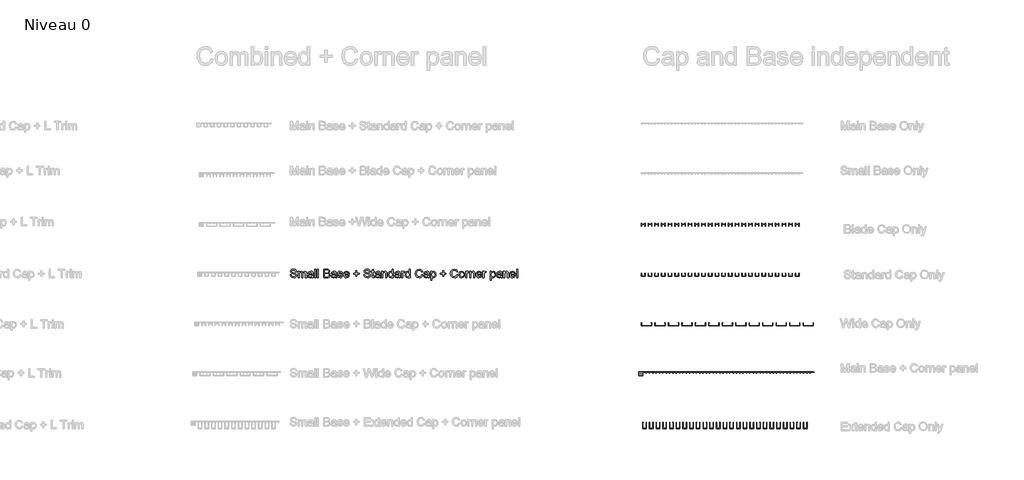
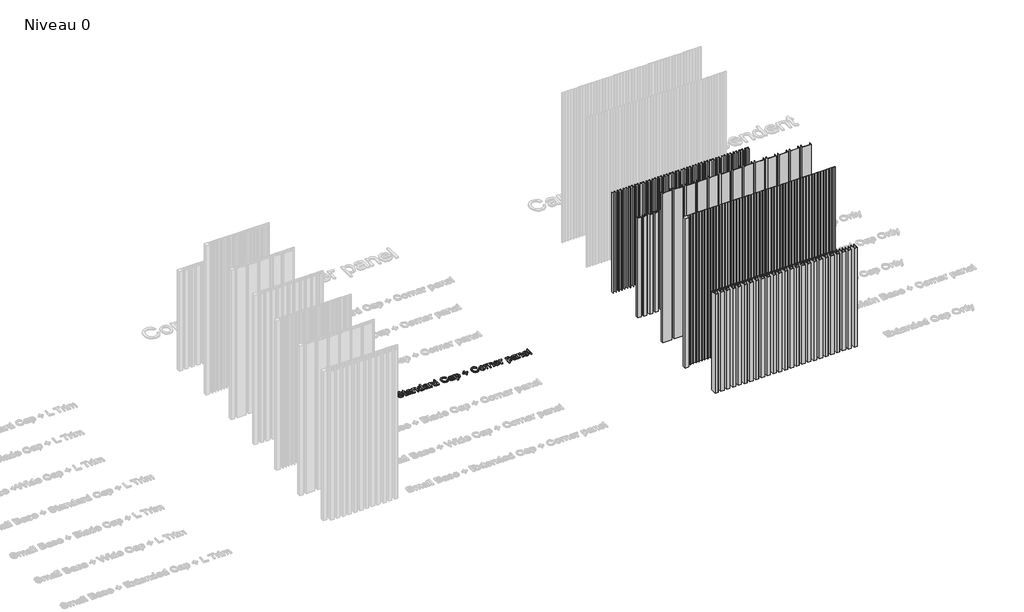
# One storey, part 16 of 25: 6 proxies.
"""IFC4 building model written with IfcOpenShell, lengths in millimetres."""

from ifc_helpers import new_model, si_unit, origin, origin_with_axes, place, context, project, spatial, polyline, outline, extrude, transform, mapped, element, save
from components import a_gen_line_blade_cap_only_a_gen_line_blade_cap_only_2f410b4f, a_gen_line_extended_cap_only_a_gen_line_extended_cap_only_e9d753a0, a_gen_line_main_base_only_corner_angle_a_gen_line_main_base_0dd37ec3, a_gen_line_standard_cap_only_a_gen_line_standard_cap_only_ef96d668, a_gen_line_wide_cap_only_a_gen_line_wide_cap_only_8896deaa

model = new_model("IFC4")

# Units and contexts
model_context = context("Model", 3, world=origin())
ifc_project = project(units=[si_unit("LENGTHUNIT", "METRE", prefix="MILLI")], contexts=[model_context])

# Site, building, storey
site = spatial("IfcSite", under=ifc_project)
building = spatial("IfcBuilding", under=site)
storey = spatial("IfcBuildingStorey", under=building, Name="Niveau 0", Elevation=0.0)

# Proxies
placement = place(None, origin())
element("IfcBuildingElementProxy", 1, Name="70mm Arial", ObjectType="70mm Arial", at=placement, inside=storey, context=model_context, shape_type="SweptSolid", body=[
    extrude(outline(polyline([(3882.8802856, 3324.589306), (3891.6702128, 3324.589306), (3894.5029041, 3315.790795), (3901.4215382, 3310.2284192), (3911.9625836, 3308.1081926), (3921.1473708, 3309.7133844), (3927.0788548, 3314.1255158), (3929.0274031, 3320.0226642), (3927.5681379, 3325.5077847), (3921.5937343, 3329.4993044), (3908.7951196, 3332.8556144), (3895.0179389, 3337.1904906), (3887.5413505, 3343.7314325), (3885.0777674, 3352.4698561), (3888.1250566, 3362.4186116), (3897.0265746, 3369.4402526), (3910.0569549, 3371.8351644), (3923.9628943, 3369.3286617), (3933.2335206, 3361.9636642), (3936.7185893, 3350.9590874), (3927.9286622, 3350.9590874), (3922.9499925, 3359.9893641), (3910.4003114, 3363.0452372), (3897.8162946, 3360.0236998), (3893.8676945, 3352.7273735), (3896.6660503, 3346.6327952), (3911.0183532, 3341.7227968), (3926.5724039, 3337.3106654), (3935.0790619, 3330.1860174), (3937.8173302, 3320.2458459), (3934.6670341, 3309.7305522), (3925.6024217, 3302.0565338), (3912.3059401, 3299.3182655), (3896.6059629, 3302.2711316), (3886.6743753, 3311.1640657), (3882.8802856, 3324.589306)])), origin_with_axes(), (0.0, 0.0, 1.0), 10.0),
    extrude(outline(polyline([(3949.9034801, 3300.4170064), (3949.9034801, 3352.0578283), (3958.6934072, 3352.0578283), (3958.6934072, 3343.5597542), (3964.7364821, 3350.5213078), (3973.3375631, 3353.1565692), (3982.1446581, 3350.4698044), (3986.9859852, 3342.9417125), (3993.8445318, 3350.602855), (4002.5057003, 3353.1565692), (4013.9995601, 3348.9075322), (4018.0254154, 3335.8170645), (4018.0254154, 3300.4170064), (4009.2354882, 3300.4170064), (4009.2354882, 3332.0401427), (4008.4200165, 3339.3793885), (4005.4671503, 3342.993216), (4000.4455611, 3344.3666421), (3991.8015605, 3340.8472376), (3988.3594113, 3329.5679757), (3988.3594113, 3300.4170064), (3979.5694841, 3300.4170064), (3979.5694841, 3333.0187088), (3977.5350967, 3341.5339507), (3970.8653961, 3344.3666421), (3964.3587899, 3342.4781812), (3960.0324977, 3336.950141), (3958.6934072, 3326.4605991), (3958.6934072, 3300.4170064), (3949.9034801, 3300.4170064)])), origin_with_axes(), (0.0, 0.0, 1.0), 10.0),
    extrude(outline(polyline([(4064.1725329, 3307.0094517), (4055.648707, 3301.052216), (4046.2321542, 3299.3182655), (4033.4678753, 3303.4900473), (4029.0128243, 3314.1512675), (4030.6952713, 3321.1042372), (4035.1159866, 3326.1515782), (4041.2706524, 3329.0357731), (4048.8759995, 3330.3576957), (4064.1210294, 3333.3792331), (4064.1725329, 3335.3363654), (4061.7518693, 3341.8258038), (4052.0348796, 3344.3666421), (4043.1419455, 3342.6756112), (4038.9014923, 3336.6754558), (4030.1115652, 3337.7741967), (4033.9142387, 3346.3581099), (4041.5710893, 3351.3882831), (4053.1679561, 3353.1565692), (4063.8205924, 3351.594297), (4069.8379156, 3347.6714487), (4072.5332643, 3341.705629), (4072.96246, 3334.0144427), (4072.96246, 3323.0785373), (4073.4088235, 3307.8077557), (4075.1599418, 3300.4170064), (4066.3700146, 3300.4170064), (4064.1725329, 3307.0094517)]), holes=[polyline([(4064.1725329, 3324.589306), (4049.9919082, 3321.8939573), (4042.4294807, 3320.4690277), (4039.0044993, 3318.1513711), (4037.8027514, 3314.7693093), (4040.420845, 3310.0138214), (4048.1034473, 3308.1081926), (4056.9963814, 3310.2112514), (4062.7304354, 3315.3015119), (4064.1210294, 3322.0999712), (4064.1725329, 3324.589306)])]), origin_with_axes(), (0.0, 0.0, 1.0), 10.0),
    extrude(outline(polyline([(4085.0486098, 3300.4170064), (4085.0486098, 3370.7364235), (4093.8385369, 3370.7364235), (4093.8385369, 3300.4170064), (4085.0486098, 3300.4170064)])), origin_with_axes(), (0.0, 0.0, 1.0), 10.0),
    extrude(outline(polyline([(4107.0234276, 3300.4170064), (4107.0234276, 3370.7364235), (4115.8133548, 3370.7364235), (4115.8133548, 3300.4170064), (4107.0234276, 3300.4170064)])), origin_with_axes(), (0.0, 0.0, 1.0), 10.0),
    extrude(outline(polyline([(4157.5655087, 3300.4170064), (4157.5655087, 3370.7364235), (4184.3988214, 3370.7364235), (4197.5407926, 3368.6677004), (4205.3006501, 3362.3070207), (4208.1075897, 3353.3110796), (4205.7470136, 3345.0962747), (4198.6137817, 3338.8729376), (4207.2749502, 3332.3148279), (4210.3050715, 3321.3789225), (4208.2363484, 3311.928034), (4203.1117522, 3305.198246), (4195.4634856, 3301.6273381), (4184.1928075, 3300.4170064), (4157.5655087, 3300.4170064)]), holes=[polyline([(4166.3554358, 3309.2069335), (4184.3816536, 3309.2069335), (4190.9054276, 3309.55029), (4196.4248838, 3311.4645027), (4200.0816309, 3315.3701832), (4201.5151444, 3321.2930833), (4199.8326974, 3328.1258783), (4194.3819125, 3332.203237), (4183.5232623, 3333.3792331), (4166.3554358, 3333.3792331), (4166.3554358, 3309.2069335)]), polyline([(4166.3554358, 3342.1691603), (4182.4073536, 3342.1691603), (4191.7809868, 3342.9245446), (4197.4206178, 3346.1778478), (4199.3176626, 3351.9033179), (4197.5493765, 3357.6373719), (4192.4848677, 3361.0280176), (4181.1884379, 3361.9464963), (4166.3554358, 3361.9464963), (4166.3554358, 3342.1691603)])]), origin_with_axes(), (0.0, 0.0, 1.0), 10.0),
    extrude(outline(polyline([(4254.2547072, 3307.0094517), (4245.7308814, 3301.052216), (4236.3143286, 3299.3182655), (4223.5500496, 3303.4900473), (4219.0949987, 3314.1512675), (4220.7774457, 3321.1042372), (4225.198161, 3326.1515782), (4231.3528267, 3329.0357731), (4238.9581739, 3330.3576957), (4254.2032037, 3333.3792331), (4254.2547072, 3335.3363654), (4251.8340437, 3341.8258038), (4242.1170539, 3344.3666421), (4233.2241198, 3342.6756112), (4228.9836667, 3336.6754558), (4220.1937396, 3337.7741967), (4223.9964131, 3346.3581099), (4231.6532637, 3351.3882831), (4243.2501305, 3353.1565692), (4253.9027668, 3351.594297), (4259.9200899, 3347.6714487), (4262.6154387, 3341.705629), (4263.0446343, 3334.0144427), (4263.0446343, 3323.0785373), (4263.4909978, 3307.8077557), (4265.2421161, 3300.4170064), (4256.452189, 3300.4170064), (4254.2547072, 3307.0094517)]), holes=[polyline([(4254.2547072, 3324.589306), (4240.0740826, 3321.8939573), (4232.511655, 3320.4690277), (4229.0866736, 3318.1513711), (4227.8849258, 3314.7693093), (4230.5030193, 3310.0138214), (4238.1856217, 3308.1081926), (4247.0785558, 3310.2112514), (4252.8126098, 3315.3015119), (4254.2032037, 3322.0999712), (4254.2547072, 3324.589306)])]), origin_with_axes(), (0.0, 0.0, 1.0), 10.0),
    extrude(outline(polyline([(4271.8345615, 3315.7993789), (4280.6244886, 3316.8981198), (4284.6932635, 3310.3743457), (4294.0153933, 3308.1081926), (4302.9769987, 3310.1854996), (4305.8955291, 3315.0611623), (4302.9598308, 3319.0097624), (4293.9123863, 3321.5162651), (4280.6759921, 3325.8168056), (4274.8990185, 3330.8383948), (4272.9333024, 3337.9287072), (4274.5127424, 3344.4782329), (4278.8218668, 3349.4826543), (4284.4099944, 3352.0835801), (4291.9724219, 3353.1565692), (4302.6679778, 3351.4312026), (4309.466437, 3346.7615539), (4312.4879745, 3338.8729376), (4303.6980474, 3337.7741967), (4300.3932408, 3342.6241077), (4292.659135, 3344.3666421), (4284.2469, 3342.7013629), (4281.7232295, 3338.8214341), (4282.7704669, 3336.263428), (4286.0495218, 3334.3234636), (4293.6205332, 3332.4521705), (4306.5221548, 3328.3147243), (4312.5137262, 3323.6279077), (4314.6854563, 3315.988225), (4312.1360341, 3307.57599), (4304.7796204, 3301.4728277), (4293.8952185, 3299.3182655), (4278.5643495, 3303.4728795), (4271.8345615, 3315.7993789)])), origin_with_axes(), (0.0, 0.0, 1.0), 10.0),
    extrude(outline(polyline([(4360.7295668, 3315.7993789), (4369.3478157, 3314.700638), (4361.2875212, 3303.3527047), (4346.2742569, 3299.3182655), (4335.9606852, 3301.0586539), (4328.0248574, 3306.2798191), (4322.9646406, 3314.6426966), (4321.2779016, 3325.8082217), (4322.9818084, 3337.349293), (4328.0935287, 3345.9804178), (4335.9220576, 3351.3625313), (4345.77639, 3353.1565692), (4355.3238475, 3351.3668233), (4362.9528003, 3345.9975856), (4367.9550758, 3337.3836287), (4369.6225009, 3325.8597252), (4369.5709974, 3323.4905651), (4330.0678288, 3323.4905651), (4335.1237537, 3312.0739605), (4346.4459352, 3308.1081926), (4355.0641841, 3309.9451501), (4360.7295668, 3315.7993789)]), holes=[polyline([(4330.0678288, 3332.2804923), (4360.8325738, 3332.2804923), (4357.3131693, 3340.2463637), (4345.7420543, 3344.3666421), (4334.9177397, 3341.0790033), (4330.0678288, 3332.2804923)])]), origin_with_axes(), (0.0, 0.0, 1.0), 10.0),
    extrude(outline(polyline([(4423.4608046, 3311.4044153), (4423.4608046, 3330.0830105), (4404.7822095, 3330.0830105), (4404.7822095, 3338.8729376), (4423.4608046, 3338.8729376), (4423.4608046, 3357.5515328), (4432.2507318, 3357.5515328), (4432.2507318, 3338.8729376), (4450.9293269, 3338.8729376), (4450.9293269, 3330.0830105), (4432.2507318, 3330.0830105), (4432.2507318, 3311.4044153), (4423.4608046, 3311.4044153)])), origin_with_axes(), (0.0, 0.0, 1.0), 10.0),
    extrude(outline(polyline([(4488.2865173, 3324.589306), (4497.0764444, 3324.589306), (4499.9091358, 3315.790795), (4506.8277698, 3310.2284192), (4517.3688153, 3308.1081926), (4526.5536024, 3309.7133844), (4532.4850864, 3314.1255158), (4534.4336347, 3320.0226642), (4532.9743695, 3325.5077847), (4526.9999659, 3329.4993044), (4514.2013513, 3332.8556144), (4500.4241706, 3337.1904906), (4492.9475821, 3343.7314325), (4490.483999, 3352.4698561), (4493.5312882, 3362.4186116), (4502.4328063, 3369.4402526), (4515.4631865, 3371.8351644), (4529.3691259, 3369.3286617), (4538.6397522, 3361.9636642), (4542.124821, 3350.9590874), (4533.3348938, 3350.9590874), (4528.3562242, 3359.9893641), (4515.806543, 3363.0452372), (4503.2225263, 3360.0236998), (4499.2739262, 3352.7273735), (4502.0722819, 3346.6327952), (4516.4245848, 3341.7227968), (4531.9786356, 3337.3106654), (4540.4852936, 3330.1860174), (4543.2235619, 3320.2458459), (4540.0732657, 3309.7305522), (4531.0086534, 3302.0565338), (4517.7121718, 3299.3182655), (4502.0121945, 3302.2711316), (4492.0806069, 3311.1640657), (4488.2865173, 3324.589306)])), origin_with_axes(), (0.0, 0.0, 1.0), 10.0),
    extrude(outline(polyline([(4573.9883069, 3307.7476683), (4575.0870478, 3300.159489), (4568.5117702, 3299.3182655), (4561.1467727, 3300.7775307), (4557.4728578, 3304.605956), (4556.4084526, 3314.5804632), (4556.4084526, 3343.2679012), (4549.8160072, 3343.2679012), (4549.8160072, 3352.0578283), (4556.4084526, 3352.0578283), (4556.4084526, 3364.6075094), (4565.1983797, 3369.7750252), (4565.1983797, 3352.0578283), (4573.9883069, 3352.0578283), (4573.9883069, 3343.2679012), (4565.1983797, 3343.2679012), (4565.1983797, 3314.8379806), (4565.661911, 3310.3056744), (4567.1640958, 3308.7004826), (4570.1598816, 3308.1081926), (4573.9883069, 3307.7476683)])), origin_with_axes(), (0.0, 0.0, 1.0), 10.0),
    extrude(outline(polyline([(4615.7404608, 3307.0094517), (4607.2166349, 3301.052216), (4597.8000821, 3299.3182655), (4585.0358032, 3303.4900473), (4580.5807522, 3314.1512675), (4582.2631992, 3321.1042372), (4586.6839145, 3326.1515782), (4592.8385803, 3329.0357731), (4600.4439274, 3330.3576957), (4615.6889573, 3333.3792331), (4615.7404608, 3335.3363654), (4613.3197972, 3341.8258038), (4603.6028075, 3344.3666421), (4594.7098734, 3342.6756112), (4590.4694202, 3336.6754558), (4581.6794931, 3337.7741967), (4585.4821667, 3346.3581099), (4593.1390173, 3351.3882831), (4604.735884, 3353.1565692), (4615.3885203, 3351.594297), (4621.4058435, 3347.6714487), (4624.1011922, 3341.705629), (4624.5303879, 3334.0144427), (4624.5303879, 3323.0785373), (4624.9767514, 3307.8077557), (4626.7278697, 3300.4170064), (4617.9379426, 3300.4170064), (4615.7404608, 3307.0094517)]), holes=[polyline([(4615.7404608, 3324.589306), (4601.5598361, 3321.8939573), (4593.9974086, 3320.4690277), (4590.5724272, 3318.1513711), (4589.3706794, 3314.7693093), (4591.9887729, 3310.0138214), (4599.6713752, 3308.1081926), (4608.5643093, 3310.2112514), (4614.2983633, 3315.3015119), (4615.6889573, 3322.0999712), (4615.7404608, 3324.589306)])]), origin_with_axes(), (0.0, 0.0, 1.0), 10.0),
    extrude(outline(polyline([(4636.6165377, 3300.4170064), (4636.6165377, 3352.0578283), (4645.4064649, 3352.0578283), (4645.4064649, 3344.8473412), (4652.1276689, 3351.0792622), (4661.3038721, 3353.1565692), (4669.6045162, 3351.4827061), (4675.269899, 3347.0877426), (4677.9051603, 3340.6240559), (4678.3686916, 3332.1259818), (4678.3686916, 3300.4170064), (4669.5787645, 3300.4170064), (4669.5787645, 3330.9414018), (4668.5658627, 3338.7184272), (4664.9863709, 3342.8301216), (4658.9518799, 3344.3666421), (4649.4151523, 3340.915909), (4645.4064649, 3327.8168574), (4645.4064649, 3300.4170064), (4636.6165377, 3300.4170064)])), origin_with_axes(), (0.0, 0.0, 1.0), 10.0),
    extrude(outline(polyline([(4722.3183273, 3300.4170064), (4722.3183273, 3308.7090665), (4716.5027261, 3301.6659658), (4708.4638914, 3299.3182655), (4697.5794894, 3302.7174951), (4689.8883032, 3312.2027192), (4687.1586188, 3326.1859139), (4689.6737053, 3340.1776924), (4697.2103811, 3349.8088431), (4708.4295557, 3353.1565692), (4716.5327698, 3350.7616574), (4722.3183273, 3344.5383203), (4722.3183273, 3370.7364235), (4731.1082545, 3370.7364235), (4731.1082545, 3300.4170064), (4722.3183273, 3300.4170064)]), holes=[polyline([(4695.9485459, 3326.2202495), (4699.9143138, 3312.6147471), (4709.2707792, 3308.1081926), (4718.5156538, 3312.4087331), (4722.3183273, 3325.5507043), (4718.4469825, 3339.8171681), (4708.9102549, 3344.3666421), (4699.6567964, 3339.9974302), (4695.9485459, 3326.2202495)])]), origin_with_axes(), (0.0, 0.0, 1.0), 10.0),
    extrude(outline(polyline([(4777.2553719, 3307.0094517), (4768.7315461, 3301.052216), (4759.3149933, 3299.3182655), (4746.5507143, 3303.4900473), (4742.0956634, 3314.1512675), (4743.7781104, 3321.1042372), (4748.1988257, 3326.1515782), (4754.3534915, 3329.0357731), (4761.9588386, 3330.3576957), (4777.2038684, 3333.3792331), (4777.2553719, 3335.3363654), (4774.8347084, 3341.8258038), (4765.1177186, 3344.3666421), (4756.2247845, 3342.6756112), (4751.9843314, 3336.6754558), (4743.1944043, 3337.7741967), (4746.9970778, 3346.3581099), (4754.6539284, 3351.3882831), (4766.2507952, 3353.1565692), (4776.9034315, 3351.594297), (4782.9207547, 3347.6714487), (4785.6161034, 3341.705629), (4786.0452991, 3334.0144427), (4786.0452991, 3323.0785373), (4786.4916626, 3307.8077557), (4788.2427809, 3300.4170064), (4779.4528537, 3300.4170064), (4777.2553719, 3307.0094517)]), holes=[polyline([(4777.2553719, 3324.589306), (4763.0747473, 3321.8939573), (4755.5123197, 3320.4690277), (4752.0873384, 3318.1513711), (4750.8855905, 3314.7693093), (4753.503684, 3310.0138214), (4761.1862864, 3308.1081926), (4770.0792205, 3310.2112514), (4775.8132745, 3315.3015119), (4777.2038684, 3322.0999712), (4777.2553719, 3324.589306)])]), origin_with_axes(), (0.0, 0.0, 1.0), 10.0),
    extrude(outline(polyline([(4798.1314489, 3300.4170064), (4798.1314489, 3352.0578283), (4805.8226351, 3352.0578283), (4805.8226351, 3344.4181455), (4811.2820039, 3351.4569544), (4816.7757084, 3353.1565692), (4825.5999712, 3350.4440526), (4822.6642729, 3342.5640203), (4816.4838553, 3344.3666421), (4811.5137696, 3342.6326916), (4808.3463056, 3337.8257002), (4806.921376, 3327.55934), (4806.921376, 3300.4170064), (4798.1314489, 3300.4170064)])), origin_with_axes(), (0.0, 0.0, 1.0), 10.0),
    extrude(outline(polyline([(4862.9571615, 3300.4170064), (4862.9571615, 3308.7090665), (4857.1415603, 3301.6659658), (4849.1027256, 3299.3182655), (4838.2183236, 3302.7174951), (4830.5271374, 3312.2027192), (4827.797453, 3326.1859139), (4830.3125395, 3340.1776924), (4837.8492154, 3349.8088431), (4849.0683899, 3353.1565692), (4857.171604, 3350.7616574), (4862.9571615, 3344.5383203), (4862.9571615, 3370.7364235), (4871.7470887, 3370.7364235), (4871.7470887, 3300.4170064), (4862.9571615, 3300.4170064)]), holes=[polyline([(4836.5873801, 3326.2202495), (4840.553148, 3312.6147471), (4849.9096134, 3308.1081926), (4859.154488, 3312.4087331), (4862.9571615, 3325.5507043), (4859.0858167, 3339.8171681), (4849.5490891, 3344.3666421), (4840.2956306, 3339.9974302), (4836.5873801, 3326.2202495)])]), origin_with_axes(), (0.0, 0.0, 1.0), 10.0),
    extrude(outline(polyline([(4962.9425827, 3325.4133617), (4971.7325099, 3323.1472086), (4967.6766109, 3312.9044541), (4961.3116392, 3305.4214278), (4952.9509077, 3300.8440561), (4942.9077293, 3299.3182655), (4924.6154102, 3303.9364108), (4913.8855187, 3317.3101476), (4910.2030199, 3336.1089175), (4914.3662178, 3355.2167084), (4926.2034341, 3367.6032952), (4943.0965754, 3371.8351644), (4960.7021814, 3366.3586277), (4970.633769, 3350.9419196), (4961.8438418, 3348.8474448), (4954.6333547, 3359.6545915), (4942.7532188, 3363.0452372), (4929.0017898, 3359.2854832), (4921.2333484, 3349.1908013), (4918.992947, 3336.1260854), (4921.6453762, 3320.9840625), (4929.9031007, 3311.3099923), (4942.0321701, 3308.1081926), (4955.4831621, 3312.4688205), (4962.9425827, 3325.4133617)])), origin_with_axes(), (0.0, 0.0, 1.0), 10.0),
    extrude(outline(polyline([(5015.6821455, 3307.0094517), (5007.1583197, 3301.052216), (4997.7417669, 3299.3182655), (4984.977488, 3303.4900473), (4980.522437, 3314.1512675), (4982.204884, 3321.1042372), (4986.6255993, 3326.1515782), (4992.7802651, 3329.0357731), (5000.3856122, 3330.3576957), (5015.6306421, 3333.3792331), (5015.6821455, 3335.3363654), (5013.261482, 3341.8258038), (5003.5444923, 3344.3666421), (4994.6515582, 3342.6756112), (4990.411105, 3336.6754558), (4981.6211779, 3337.7741967), (4985.4238514, 3346.3581099), (4993.080702, 3351.3882831), (5004.6775688, 3353.1565692), (5015.3302051, 3351.594297), (5021.3475283, 3347.6714487), (5024.042877, 3341.705629), (5024.4720727, 3334.0144427), (5024.4720727, 3323.0785373), (5024.9184362, 3307.8077557), (5026.6695545, 3300.4170064), (5017.8796273, 3300.4170064), (5015.6821455, 3307.0094517)]), holes=[polyline([(5015.6821455, 3324.589306), (5001.5015209, 3321.8939573), (4993.9390934, 3320.4690277), (4990.514112, 3318.1513711), (4989.3123641, 3314.7693093), (4991.9304577, 3310.0138214), (4999.61306, 3308.1081926), (5008.5059941, 3310.2112514), (5014.2400481, 3315.3015119), (5015.6306421, 3322.0999712), (5015.6821455, 3324.589306)])]), origin_with_axes(), (0.0, 0.0, 1.0), 10.0),
    extrude(outline(polyline([(5036.5582225, 3280.6396703), (5036.5582225, 3352.0578283), (5045.3481496, 3352.0578283), (5045.3481496, 3343.4395794), (5051.4255602, 3350.7273218), (5059.6317812, 3353.1565692), (5070.7737006, 3349.7573396), (5078.052859, 3340.1776924), (5080.5078582, 3326.6322774), (5077.7352542, 3312.3915653), (5069.6835436, 3302.6917434), (5058.567376, 3299.3182655), (5050.9191093, 3301.5758347), (5045.3481496, 3307.284137), (5045.3481496, 3280.6396703), (5036.5582225, 3280.6396703)]), holes=[polyline([(5045.3481496, 3325.8253895), (5049.1508232, 3312.4344849), (5058.3785299, 3308.1081926), (5067.7950827, 3312.5889953), (5071.7179311, 3326.4777669), (5067.8895058, 3339.9030072), (5058.7390543, 3344.3666421), (5049.4083406, 3339.6197381), (5045.3481496, 3325.8253895)])]), origin_with_axes(), (0.0, 0.0, 1.0), 10.0),
    extrude(outline(polyline([(5135.4449028, 3311.4044153), (5135.4449028, 3330.0830105), (5116.7663076, 3330.0830105), (5116.7663076, 3338.8729376), (5135.4449028, 3338.8729376), (5135.4449028, 3357.5515328), (5144.2348299, 3357.5515328), (5144.2348299, 3338.8729376), (5162.9134251, 3338.8729376), (5162.9134251, 3330.0830105), (5144.2348299, 3330.0830105), (5144.2348299, 3311.4044153), (5135.4449028, 3311.4044153)])), origin_with_axes(), (0.0, 0.0, 1.0), 10.0),
    extrude(outline(polyline([(5253.0101783, 3325.4133617), (5261.8001054, 3323.1472086), (5257.7442064, 3312.9044541), (5251.3792348, 3305.4214278), (5243.0185033, 3300.8440561), (5232.9753248, 3299.3182655), (5214.6830057, 3303.9364108), (5203.9531142, 3317.3101476), (5200.2706154, 3336.1089175), (5204.4338134, 3355.2167084), (5216.2710297, 3367.6032952), (5233.1641709, 3371.8351644), (5250.7697769, 3366.3586277), (5260.7013645, 3350.9419196), (5251.9114374, 3348.8474448), (5244.7009503, 3359.6545915), (5232.8208144, 3363.0452372), (5219.0693854, 3359.2854832), (5211.3009439, 3349.1908013), (5209.0605426, 3336.1260854), (5211.7129718, 3320.9840625), (5219.9706963, 3311.3099923), (5232.0997657, 3308.1081926), (5245.5507577, 3312.4688205), (5253.0101783, 3325.4133617)])), origin_with_axes(), (0.0, 0.0, 1.0), 10.0),
    extrude(outline(polyline([(5270.5900326, 3326.2374173), (5272.4913693, 3338.6883835), (5278.1953797, 3347.439683), (5293.6807591, 3353.1565692), (5302.9149038, 3351.4161808), (5310.2906312, 3346.1950156), (5315.1255203, 3337.9051014), (5316.73715, 3326.9584661), (5313.8872908, 3311.3185762), (5305.5866468, 3302.4685616), (5293.6807591, 3299.3182655), (5284.3350236, 3301.052216), (5276.9678801, 3306.2540674), (5272.1844944, 3314.7178058), (5270.5900326, 3326.2374173)]), holes=[polyline([(5279.3799597, 3326.2545852), (5283.4487346, 3312.6319149), (5293.6807591, 3308.1081926), (5303.878448, 3312.6576666), (5307.9472229, 3326.5292704), (5303.8526963, 3339.8429198), (5293.6807591, 3344.3666421), (5283.4487346, 3339.8600876), (5279.3799597, 3326.2545852)])]), origin_with_axes(), (0.0, 0.0, 1.0), 10.0),
    extrude(outline(polyline([(5326.6258181, 3300.4170064), (5326.6258181, 3352.0578283), (5334.3170043, 3352.0578283), (5334.3170043, 3344.4181455), (5339.7763731, 3351.4569544), (5345.2700776, 3353.1565692), (5354.0943404, 3350.4440526), (5351.158642, 3342.5640203), (5344.9782245, 3344.3666421), (5340.0081388, 3342.6326916), (5336.8406748, 3337.8257002), (5335.4157452, 3327.55934), (5335.4157452, 3300.4170064), (5326.6258181, 3300.4170064)])), origin_with_axes(), (0.0, 0.0, 1.0), 10.0),
    extrude(outline(polyline([(5359.5880448, 3300.4170064), (5359.5880448, 3352.0578283), (5368.377972, 3352.0578283), (5368.377972, 3344.8473412), (5375.099176, 3351.0792622), (5384.2753792, 3353.1565692), (5392.5760233, 3351.4827061), (5398.2414061, 3347.0877426), (5400.8766674, 3340.6240559), (5401.3401987, 3332.1259818), (5401.3401987, 3300.4170064), (5392.5502716, 3300.4170064), (5392.5502716, 3330.9414018), (5391.5373698, 3338.7184272), (5387.957878, 3342.8301216), (5381.923387, 3344.3666421), (5372.3866594, 3340.915909), (5368.377972, 3327.8168574), (5368.377972, 3300.4170064), (5359.5880448, 3300.4170064)])), origin_with_axes(), (0.0, 0.0, 1.0), 10.0),
    extrude(outline(polyline([(5449.581791, 3315.7993789), (5458.2000399, 3314.700638), (5450.1397454, 3303.3527047), (5435.1264812, 3299.3182655), (5424.8129094, 3301.0586539), (5416.8770817, 3306.2798191), (5411.8168648, 3314.6426966), (5410.1301259, 3325.8082217), (5411.8340326, 3337.349293), (5416.945753, 3345.9804178), (5424.7742818, 3351.3625313), (5434.6286142, 3353.1565692), (5444.1760717, 3351.3668233), (5451.8050246, 3345.9975856), (5456.8073, 3337.3836287), (5458.4747251, 3325.8597252), (5458.4232217, 3323.4905651), (5418.920053, 3323.4905651), (5423.9759779, 3312.0739605), (5435.2981594, 3308.1081926), (5443.9164083, 3309.9451501), (5449.581791, 3315.7993789)]), holes=[polyline([(5418.920053, 3332.2804923), (5449.684798, 3332.2804923), (5446.1653936, 3340.2463637), (5434.5942785, 3344.3666421), (5423.769964, 3341.0790033), (5418.920053, 3332.2804923)])]), origin_with_axes(), (0.0, 0.0, 1.0), 10.0),
    extrude(outline(polyline([(5467.2646523, 3300.4170064), (5467.2646523, 3352.0578283), (5474.9558385, 3352.0578283), (5474.9558385, 3344.4181455), (5480.4152073, 3351.4569544), (5485.9089118, 3353.1565692), (5494.7331746, 3350.4440526), (5491.7974763, 3342.5640203), (5485.6170587, 3344.3666421), (5480.646973, 3342.6326916), (5477.479509, 3337.8257002), (5476.0545794, 3327.55934), (5476.0545794, 3300.4170064), (5467.2646523, 3300.4170064)])), origin_with_axes(), (0.0, 0.0, 1.0), 10.0),
    extrude(outline(polyline([(5527.6954013, 3280.6396703), (5527.6954013, 3352.0578283), (5536.4853285, 3352.0578283), (5536.4853285, 3343.4395794), (5542.562739, 3350.7273218), (5550.7689601, 3353.1565692), (5561.9108794, 3349.7573396), (5569.1900379, 3340.1776924), (5571.645037, 3326.6322774), (5568.8724331, 3312.3915653), (5560.8207225, 3302.6917434), (5549.7045548, 3299.3182655), (5542.0562882, 3301.5758347), (5536.4853285, 3307.284137), (5536.4853285, 3280.6396703), (5527.6954013, 3280.6396703)]), holes=[polyline([(5536.4853285, 3325.8253895), (5540.288002, 3312.4344849), (5549.5157087, 3308.1081926), (5558.9322616, 3312.5889953), (5562.8551099, 3326.4777669), (5559.0266846, 3339.9030072), (5549.8762331, 3344.3666421), (5540.5455194, 3339.6197381), (5536.4853285, 3325.8253895)])]), origin_with_axes(), (0.0, 0.0, 1.0), 10.0),
    extrude(outline(polyline([(5614.4959318, 3307.0094517), (5605.972106, 3301.052216), (5596.5555532, 3299.3182655), (5583.7912742, 3303.4900473), (5579.3362233, 3314.1512675), (5581.0186703, 3321.1042372), (5585.4393856, 3326.1515782), (5591.5940514, 3329.0357731), (5599.1993985, 3330.3576957), (5614.4444284, 3333.3792331), (5614.4959318, 3335.3363654), (5612.0752683, 3341.8258038), (5602.3582785, 3344.3666421), (5593.4653444, 3342.6756112), (5589.2248913, 3336.6754558), (5580.4349642, 3337.7741967), (5584.2376377, 3346.3581099), (5591.8944883, 3351.3882831), (5603.4913551, 3353.1565692), (5614.1439914, 3351.594297), (5620.1613146, 3347.6714487), (5622.8566633, 3341.705629), (5623.285859, 3334.0144427), (5623.285859, 3323.0785373), (5623.7322225, 3307.8077557), (5625.4833408, 3300.4170064), (5616.6934136, 3300.4170064), (5614.4959318, 3307.0094517)]), holes=[polyline([(5614.4959318, 3324.589306), (5600.3153072, 3321.8939573), (5592.7528796, 3320.4690277), (5589.3278983, 3318.1513711), (5588.1261504, 3314.7693093), (5590.7442439, 3310.0138214), (5598.4268463, 3308.1081926), (5607.3197804, 3310.2112514), (5613.0538344, 3315.3015119), (5614.4444284, 3322.0999712), (5614.4959318, 3324.589306)])]), origin_with_axes(), (0.0, 0.0, 1.0), 10.0),
    extrude(outline(polyline([(5635.3720088, 3300.4170064), (5635.3720088, 3352.0578283), (5644.1619359, 3352.0578283), (5644.1619359, 3344.8473412), (5650.88314, 3351.0792622), (5660.0593432, 3353.1565692), (5668.3599873, 3351.4827061), (5674.02537, 3347.0877426), (5676.6606314, 3340.6240559), (5677.1241627, 3332.1259818), (5677.1241627, 3300.4170064), (5668.3342356, 3300.4170064), (5668.3342356, 3330.9414018), (5667.3213338, 3338.7184272), (5663.741842, 3342.8301216), (5657.707351, 3344.3666421), (5648.1706234, 3340.915909), (5644.1619359, 3327.8168574), (5644.1619359, 3300.4170064), (5635.3720088, 3300.4170064)])), origin_with_axes(), (0.0, 0.0, 1.0), 10.0),
    extrude(outline(polyline([(5725.365755, 3315.7993789), (5733.9840039, 3314.700638), (5725.9237094, 3303.3527047), (5710.9104451, 3299.3182655), (5700.5968734, 3301.0586539), (5692.6610456, 3306.2798191), (5687.6008288, 3314.6426966), (5685.9140898, 3325.8082217), (5687.6179966, 3337.349293), (5692.7297169, 3345.9804178), (5700.5582458, 3351.3625313), (5710.4125782, 3353.1565692), (5719.9600356, 3351.3668233), (5727.5889885, 3345.9975856), (5732.5912639, 3337.3836287), (5734.2586891, 3325.8597252), (5734.2071856, 3323.4905651), (5694.704017, 3323.4905651), (5699.7599419, 3312.0739605), (5711.0821234, 3308.1081926), (5719.7003723, 3309.9451501), (5725.365755, 3315.7993789)]), holes=[polyline([(5694.704017, 3332.2804923), (5725.4687619, 3332.2804923), (5721.9493575, 3340.2463637), (5710.3782425, 3344.3666421), (5699.5539279, 3341.0790033), (5694.704017, 3332.2804923)])]), origin_with_axes(), (0.0, 0.0, 1.0), 10.0),
    extrude(outline(polyline([(5743.0486162, 3300.4170064), (5743.0486162, 3370.7364235), (5751.8385434, 3370.7364235), (5751.8385434, 3300.4170064), (5743.0486162, 3300.4170064)])), origin_with_axes(), (0.0, 0.0, 1.0), 10.0),
])
a_gen_line_blade_cap_only_a_gen_line_blade_cap_only_shape = a_gen_line_blade_cap_only_a_gen_line_blade_cap_only_2f410b4f(model_context)
element("IfcBuildingElementProxy", 2, Name="A_GEN_LINE_Blade Cap_Only : A_GEN_LINE_Blade Cap_Only", ObjectType="A_GEN_LINE_Blade Cap_Only : A_GEN_LINE_Blade Cap_Only", at=placement, inside=storey, context=model_context, shape_type="MappedRepresentation", body=[
    mapped(a_gen_line_blade_cap_only_a_gen_line_blade_cap_only_shape, transform((6768.6724018, 3753.5216431, 0.0), x_axis=(1.0, 0.0, 0.0), y_axis=(0.0, 1.0, 0.0), z_axis=(0.0, 0.0, 1.0))),
])
a_gen_line_extended_cap_only_a_gen_line_extended_cap_only_shape = a_gen_line_extended_cap_only_a_gen_line_extended_cap_only_e9d753a0(model_context)
element("IfcBuildingElementProxy", 3, Name="A_GEN_LINE_Extended Cap_Only : A_GEN_LINE_Extended Cap_Only", ObjectType="A_GEN_LINE_Extended Cap_Only : A_GEN_LINE_Extended Cap_Only", at=placement, inside=storey, context=model_context, shape_type="MappedRepresentation", body=[
    mapped(a_gen_line_extended_cap_only_a_gen_line_extended_cap_only_shape, transform((6779.7281357, 2119.3939218, 0.0), x_axis=(1.0, 0.0, 0.0), y_axis=(0.0, 1.0, 0.0), z_axis=(0.0, 0.0, 1.0))),
])
a_gen_line_main_base_only_corner_angle_a_gen_line_main_base_shape = a_gen_line_main_base_only_corner_angle_a_gen_line_main_base_0dd37ec3(model_context)
element("IfcBuildingElementProxy", 4, Name="A_GEN_LINE_Main Base Only_Corner Angle : A_GEN_LINE_Main Base Only_Corner Angle", ObjectType="A_GEN_LINE_Main Base Only_Corner Angle : A_GEN_LINE_Main Base Only_Corner Angle", at=placement, inside=storey, context=model_context, shape_type="MappedRepresentation", body=[
    mapped(a_gen_line_main_base_only_corner_angle_a_gen_line_main_base_shape, transform((6779.3226647, 2527.9258522, 0.0), x_axis=(1.0, 0.0, 0.0), y_axis=(0.0, 1.0, 0.0), z_axis=(0.0, 0.0, 1.0))),
])
a_gen_line_standard_cap_only_a_gen_line_standard_cap_only_shape = a_gen_line_standard_cap_only_a_gen_line_standard_cap_only_ef96d668(model_context)
element("IfcBuildingElementProxy", 5, Name="A_GEN_LINE_Standard Cap_Only : A_GEN_LINE_Standard Cap_Only", ObjectType="A_GEN_LINE_Standard Cap_Only : A_GEN_LINE_Standard Cap_Only", at=placement, inside=storey, context=model_context, shape_type="MappedRepresentation", body=[
    mapped(a_gen_line_standard_cap_only_a_gen_line_standard_cap_only_shape, transform((6768.6724018, 3344.9897128, 0.0), x_axis=(1.0, 0.0, 0.0), y_axis=(0.0, 1.0, 0.0), z_axis=(0.0, 0.0, 1.0))),
])
a_gen_line_wide_cap_only_a_gen_line_wide_cap_only_shape = a_gen_line_wide_cap_only_a_gen_line_wide_cap_only_8896deaa(model_context)
element("IfcBuildingElementProxy", 6, Name="A_GEN_LINE_Wide Cap_Only : A_GEN_LINE_Wide Cap_Only", ObjectType="A_GEN_LINE_Wide Cap_Only : A_GEN_LINE_Wide Cap_Only", at=placement, inside=storey, context=model_context, shape_type="MappedRepresentation", body=[
    mapped(a_gen_line_wide_cap_only_a_gen_line_wide_cap_only_shape, transform((6768.6724018, 2936.4577825, 0.0), x_axis=(1.0, 0.0, 0.0), y_axis=(0.0, 1.0, 0.0), z_axis=(0.0, 0.0, 1.0))),
])

save(model, "model.ifc")
